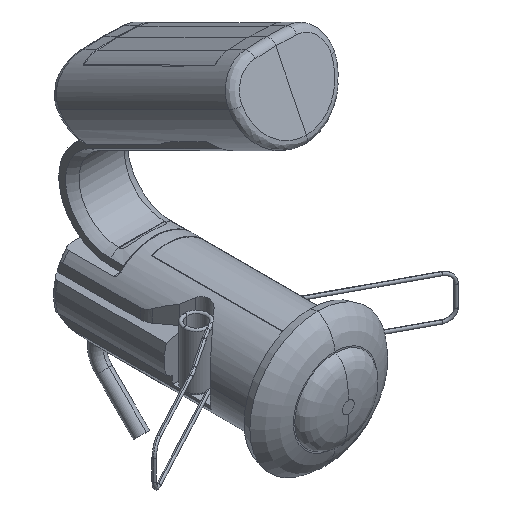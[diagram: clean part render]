
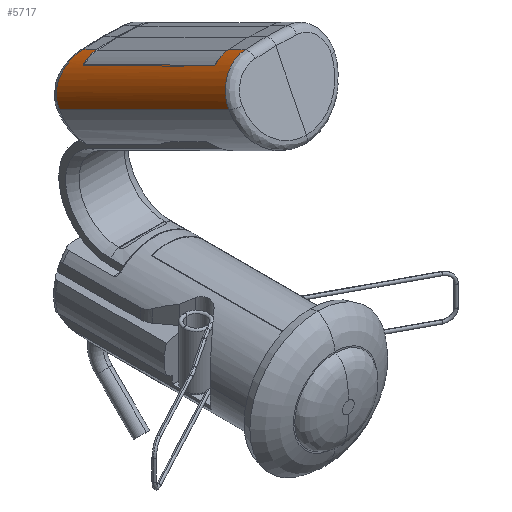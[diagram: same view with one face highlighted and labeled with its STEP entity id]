
A CAD part, isometric view. The second image highlights one B-rep face of the part: STEP entity #5717.
In plain terms, the highlighted cylindrical face has radius 12 mm (diameter 24 mm), a partial arc.
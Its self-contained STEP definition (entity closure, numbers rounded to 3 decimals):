
#893=CARTESIAN_POINT('',(-19.487,75.26,62.295));
#903=DIRECTION('',(0.,0.895,-0.446));
#904=VECTOR('',#903,71.513);
#905=CARTESIAN_POINT('',(-19.487,11.261,94.204));
#906=LINE('',#905,#904);
#907=CARTESIAN_POINT('',(-19.487,11.261,94.204));
#1027=CARTESIAN_POINT('',(-19.334,76.329,64.433));
#1028=CARTESIAN_POINT('',(-19.378,76.211,64.198));
#1029=CARTESIAN_POINT('',(-19.447,75.974,63.725));
#1030=CARTESIAN_POINT('',(-19.498,75.618,63.013));
#1031=CARTESIAN_POINT('',(-19.497,75.379,62.534));
#1032=CARTESIAN_POINT('',(-19.487,75.26,62.295));
#1034=CARTESIAN_POINT('',(-7.914,78.003,74.809));
#1035=CARTESIAN_POINT('',(-8.304,78.,74.796));
#1036=CARTESIAN_POINT('',(-9.117,78.,74.721));
#1037=CARTESIAN_POINT('',(-10.403,78.027,74.435));
#1038=CARTESIAN_POINT('',(-11.78,78.074,73.937));
#1039=CARTESIAN_POINT('',(-13.242,78.124,73.168));
#1040=CARTESIAN_POINT('',(-14.645,78.139,72.163));
#1041=CARTESIAN_POINT('',(-15.9,78.088,70.995));
#1042=CARTESIAN_POINT('',(-16.98,77.948,69.713));
#1043=CARTESIAN_POINT('',(-17.848,77.715,68.405));
#1044=CARTESIAN_POINT('',(-18.554,77.366,67.028));
#1045=CARTESIAN_POINT('',(-19.061,76.896,65.658));
#1046=CARTESIAN_POINT('',(-19.261,76.527,64.828));
#1047=CARTESIAN_POINT('',(-19.334,76.329,64.433));
#1049=CARTESIAN_POINT('',(-7.495,67.392,66.699));
#1050=DIRECTION('',(0.,0.895,-0.446));
#1051=DIRECTION('',(-0.532,0.378,0.758));
#1052=AXIS2_PLACEMENT_3D('',#1049,#1050,#1051);
#1054=DIRECTION('',(0.,0.895,-0.446));
#1055=VECTOR('',#1054,55.6);
#1056=CARTESIAN_POINT('',(-13.875,22.169,100.603));
#1057=LINE('',#1056,#1055);
#1058=CARTESIAN_POINT('',(-7.495,17.634,91.508));
#1059=DIRECTION('',(0.,0.895,-0.446));
#1060=DIRECTION('',(-0.532,0.378,0.758));
#1061=AXIS2_PLACEMENT_3D('',#1058,#1059,#1060);
#1063=CARTESIAN_POINT('',(-7.914,16.664,105.392));
#1064=CARTESIAN_POINT('',(-8.489,16.662,105.37));
#1065=CARTESIAN_POINT('',(-9.632,16.621,105.253));
#1066=CARTESIAN_POINT('',(-11.288,16.453,104.866));
#1067=CARTESIAN_POINT('',(-12.872,16.18,104.271));
#1068=CARTESIAN_POINT('',(-14.346,15.809,103.481));
#1069=CARTESIAN_POINT('',(-15.682,15.346,102.514));
#1070=CARTESIAN_POINT('',(-16.852,14.802,101.387));
#1071=CARTESIAN_POINT('',(-17.833,14.187,100.124));
#1072=CARTESIAN_POINT('',(-18.603,13.516,98.754));
#1073=CARTESIAN_POINT('',(-19.154,12.793,97.288));
#1074=CARTESIAN_POINT('',(-19.466,12.035,95.758));
#1075=CARTESIAN_POINT('',(-19.508,11.519,94.721));
#1076=CARTESIAN_POINT('',(-19.487,11.261,94.204));
#1510=DIRECTION('',(0.,0.895,-0.446));
#1511=VECTOR('',#1510,5.877);
#1512=CARTESIAN_POINT('',(-7.914,72.743,77.432));
#1513=LINE('',#1512,#1511);
#1518=DIRECTION('',(0.,0.895,-0.446));
#1519=VECTOR('',#1518,7.063);
#1520=CARTESIAN_POINT('',(-7.914,16.664,105.392));
#1521=LINE('',#1520,#1519);
#4384=CARTESIAN_POINT('',(-7.914,22.985,102.24));
#4385=VERTEX_POINT('',#4384);
#4386=CARTESIAN_POINT('',(-7.914,72.743,77.432));
#4387=VERTEX_POINT('',#4386);
#4389=CARTESIAN_POINT('',(-13.875,71.927,75.795));
#4391=VERTEX_POINT('',#4389);
#4393=CARTESIAN_POINT('',(-13.875,22.169,100.603));
#4395=VERTEX_POINT('',#4393);
#4518=VERTEX_POINT('',#893);
#4519=VERTEX_POINT('',#1027);
#4521=VERTEX_POINT('',#1034);
#4537=VERTEX_POINT('',#907);
#4540=VERTEX_POINT('',#1063);
#5694=CARTESIAN_POINT('',(-7.495,-231.558,
215.75));
#5695=DIRECTION('',(0.,0.895,-0.446));
#5696=DIRECTION('',(-0.999,-0.016,-0.032));
#5697=AXIS2_PLACEMENT_3D('',#5694,#5695,#5696);
#5698=CYLINDRICAL_SURFACE('',#5697,12.);
#5699=ORIENTED_EDGE('',*,*,#5685,.F.);
#5701=ORIENTED_EDGE('',*,*,#5700,.F.);
#5703=ORIENTED_EDGE('',*,*,#5702,.F.);
#5705=ORIENTED_EDGE('',*,*,#5704,.F.);
#5707=ORIENTED_EDGE('',*,*,#5706,.F.);
#5709=ORIENTED_EDGE('',*,*,#5708,.T.);
#5711=ORIENTED_EDGE('',*,*,#5710,.F.);
#5713=ORIENTED_EDGE('',*,*,#5712,.T.);
#5714=ORIENTED_EDGE('',*,*,#5449,.T.);
#5715=EDGE_LOOP('',(#5699,#5701,#5703,#5705,#5707,#5709,#5711,#5713,#5714));
#5716=FACE_OUTER_BOUND('',#5715,.F.);
#5717=ADVANCED_FACE('',(#5716),#5698,.T.);
#1033=B_SPLINE_CURVE_WITH_KNOTS('',3,(#1027,#1028,#1029,#1030,#1031,#1032),
.UNSPECIFIED.,.F.,.F.,(4,1,1,4),(0.,0.333,0.667,1.),
.UNSPECIFIED.);
#1048=B_SPLINE_CURVE_WITH_KNOTS('',3,(#1034,#1035,#1036,#1037,#1038,#1039,#1040,
#1041,#1042,#1043,#1044,#1045,#1046,#1047),.UNSPECIFIED.,.F.,.F.,(4,1,1,1,1,1,1,
1,1,1,1,4),(0.,0.091,0.182,0.273,
0.364,0.455,0.545,0.636,
0.727,0.818,0.909,1.),.UNSPECIFIED.);
#1053=CIRCLE('',#1052,12.);
#1062=CIRCLE('',#1061,12.);
#1077=B_SPLINE_CURVE_WITH_KNOTS('',3,(#1063,#1064,#1065,#1066,#1067,#1068,#1069,
#1070,#1071,#1072,#1073,#1074,#1075,#1076),.UNSPECIFIED.,.F.,.F.,(4,1,1,1,1,1,1,
1,1,1,1,4),(0.,0.091,0.182,0.273,
0.364,0.455,0.545,0.636,
0.727,0.818,0.909,1.),.UNSPECIFIED.);
#5449=EDGE_CURVE('',#4537,#4518,#906,.T.);
#5685=EDGE_CURVE('',#4519,#4518,#1033,.T.);
#5700=EDGE_CURVE('',#4521,#4519,#1048,.T.);
#5702=EDGE_CURVE('',#4387,#4521,#1513,.T.);
#5704=EDGE_CURVE('',#4391,#4387,#1053,.T.);
#5706=EDGE_CURVE('',#4395,#4391,#1057,.T.);
#5708=EDGE_CURVE('',#4395,#4385,#1062,.T.);
#5710=EDGE_CURVE('',#4540,#4385,#1521,.T.);
#5712=EDGE_CURVE('',#4540,#4537,#1077,.T.);
